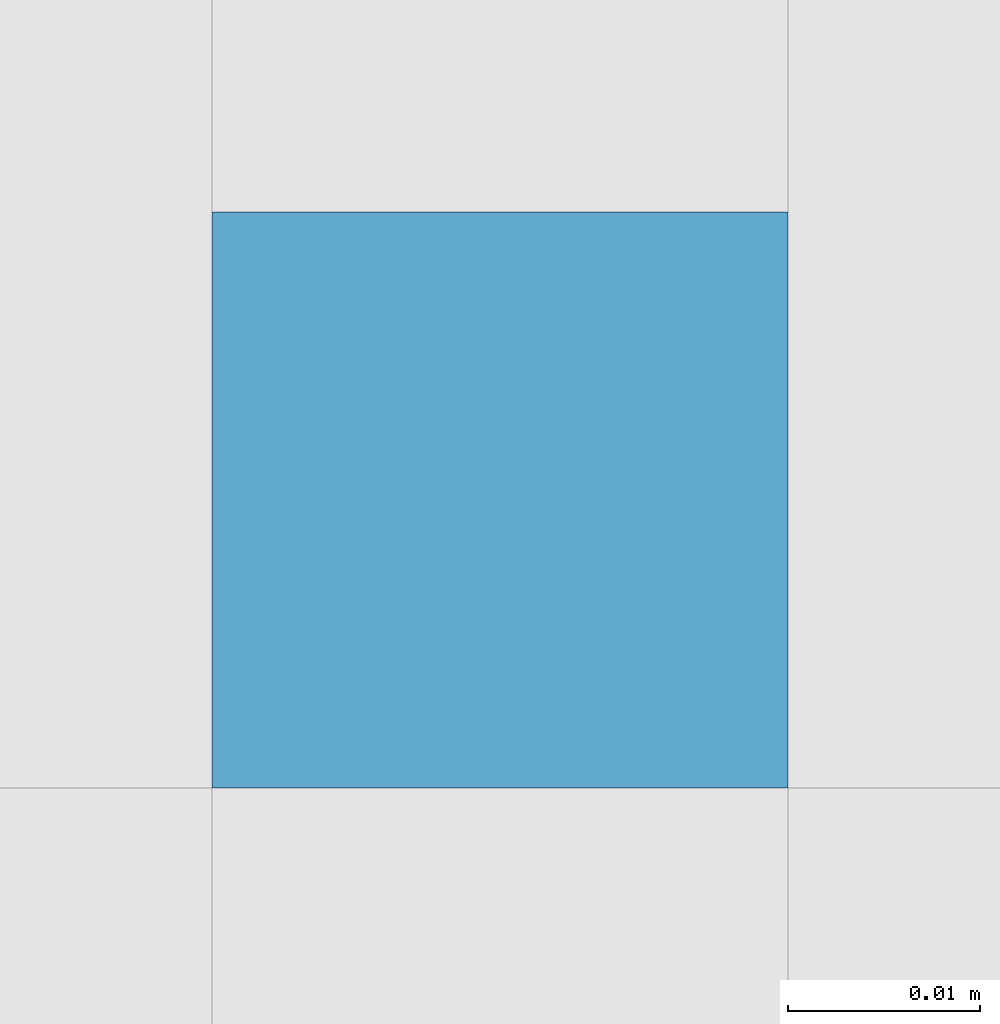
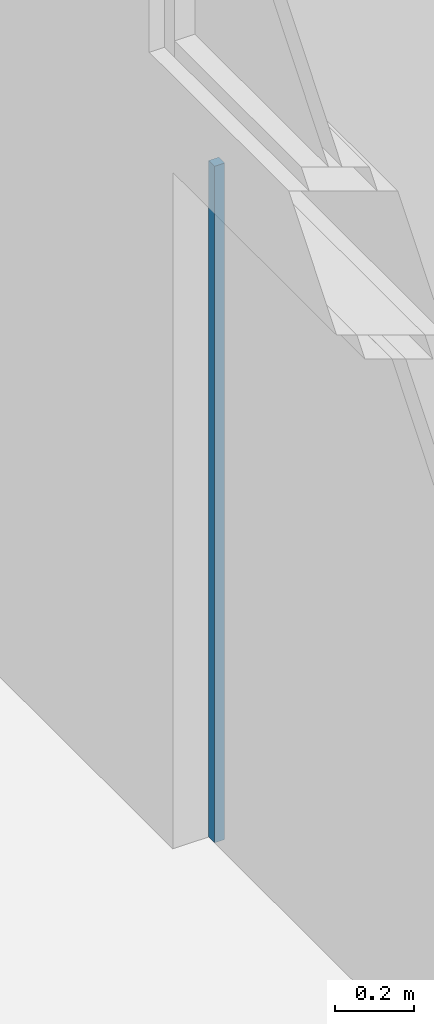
# One storey, part 2 of 24: 1 member, 1 element without a shape of its own.
"""IFC2X3 building model written with IfcOpenShell, lengths in millimetres."""

from ifc_helpers import new_model, entity, si_unit, converted_unit, derived_unit, direction, frame, origin, origin_2d_with_axis, place, context, subcontext, project, spatial, rectangle, extrude, source, transform, mapped, material, type_object, type_shapes, element, aggregate, save


model = new_model("IFC2X3")

# Units and contexts
model_context = context("Model", 3, precision=0.01, world=origin(), true_north=direction((6.12303176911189e-17, 1.0)))
body_context = subcontext(model_context, "Body", "Model", "MODEL_VIEW")
ifc_project = project(units=[si_unit("LENGTHUNIT", "METRE", prefix="MILLI"), si_unit("AREAUNIT", "SQUARE_METRE"), si_unit("VOLUMEUNIT", "CUBIC_METRE"), converted_unit("PLANEANGLEUNIT", "DEGREE", entity("IfcRatioMeasure", 0.0174532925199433), si_unit("PLANEANGLEUNIT", "RADIAN"), dimensions=[0, 0, 0, 0, 0, 0, 0]), si_unit("MASSUNIT", "GRAM", prefix="KILO"), derived_unit("MASSDENSITYUNIT", [(si_unit("MASSUNIT", "GRAM", prefix="KILO"), 1), (si_unit("LENGTHUNIT", "METRE"), -3)]), si_unit("TIMEUNIT", "SECOND"), si_unit("FREQUENCYUNIT", "HERTZ"), si_unit("THERMODYNAMICTEMPERATUREUNIT", "DEGREE_CELSIUS"), derived_unit("THERMALTRANSMITTANCEUNIT", [(si_unit("MASSUNIT", "GRAM", prefix="KILO"), 1), (si_unit("THERMODYNAMICTEMPERATUREUNIT", "KELVIN"), -1), (si_unit("TIMEUNIT", "SECOND"), -3)]), derived_unit("VOLUMETRICFLOWRATEUNIT", [(si_unit("LENGTHUNIT", "METRE"), 3), (si_unit("TIMEUNIT", "SECOND"), -1)]), si_unit("ELECTRICCURRENTUNIT", "AMPERE"), si_unit("ELECTRICVOLTAGEUNIT", "VOLT"), si_unit("POWERUNIT", "WATT"), si_unit("FORCEUNIT", "NEWTON", prefix="KILO"), si_unit("ILLUMINANCEUNIT", "LUX"), si_unit("LUMINOUSFLUXUNIT", "LUMEN"), si_unit("LUMINOUSINTENSITYUNIT", "CANDELA"), derived_unit("USERDEFINED", [(si_unit("MASSUNIT", "GRAM", prefix="KILO"), -1), (si_unit("LENGTHUNIT", "METRE"), -2), (si_unit("TIMEUNIT", "SECOND"), 3), (si_unit("LUMINOUSFLUXUNIT", "LUMEN"), 1)]), derived_unit("LINEARVELOCITYUNIT", [(si_unit("LENGTHUNIT", "METRE"), 1), (si_unit("TIMEUNIT", "SECOND"), -1)]), si_unit("PRESSUREUNIT", "PASCAL"), derived_unit("USERDEFINED", [(si_unit("LENGTHUNIT", "METRE"), -2), (si_unit("MASSUNIT", "GRAM", prefix="KILO"), 1), (si_unit("TIMEUNIT", "SECOND"), -2)])], contexts=[model_context])

# Site, building, storey
site_placement = place(None, origin())
site = spatial("IfcSite", under=ifc_project, at=site_placement, Name="表面", CompositionType="ELEMENT")
building_placement = place(site_placement, origin())
building = spatial("IfcBuilding", under=site, at=building_placement, CompositionType="ELEMENT")
storey_placement = place(building_placement, frame((0.0, 0.0, -3500.0)))
storey = spatial("IfcBuildingStorey", under=building, at=storey_placement, Name="-1F", CompositionType="ELEMENT", Elevation=-3500.0)

# Curtain wall, member
curtain_wall_type = type_object("IfcCurtainWallType", Name="幕墙:店面", PredefinedType="NOTDEFINED")
curtain_wall_placement = place(storey_placement, frame((0.0, 0.0, 3500.0)))
curtain_wall = element("IfcCurtainWall", 1, at=curtain_wall_placement, inside=storey, type_object=curtain_wall_type, Name="幕墙:店面", ObjectType="幕墙:店面")
ifc_material = material(Name="金属 - 铝")
member_type = type_object("IfcMemberType", Name="30mm 正方形", PredefinedType="MEMBER")
shared_shape = source(origin(), body_context, "Body", "SweptSolid", [
    extrude(rectangle(XDim=30.0, YDim=30.0, at=origin_2d_with_axis()), frame((-15.0, 0.0, -2100.0), z_axis=(0.0, 0.0, 1.0), x_axis=(0.0, -1.0, 0.0)), (0.0, 0.0, 1.0), 2100.0),
])
type_shapes(member_type, [shared_shape])
member_placement = place(storey_placement, frame((-3630.24991264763, -14427.8459129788, 2100.0), z_axis=(0.0, 0.0, 1.0), x_axis=(0.0, 1.0, 0.0)))
member = element("IfcMember", 2, at=member_placement, type_object=member_type, material=ifc_material, Name="矩形竖梃:30mm 正方形", ObjectType="30mm 正方形", context=body_context, shape_type="MappedRepresentation", body=[
    mapped(shared_shape, transform((0.0, 0.0, 0.0), scale=1.0)),
])
aggregate(curtain_wall, [member])

save(model, "model.ifc")
